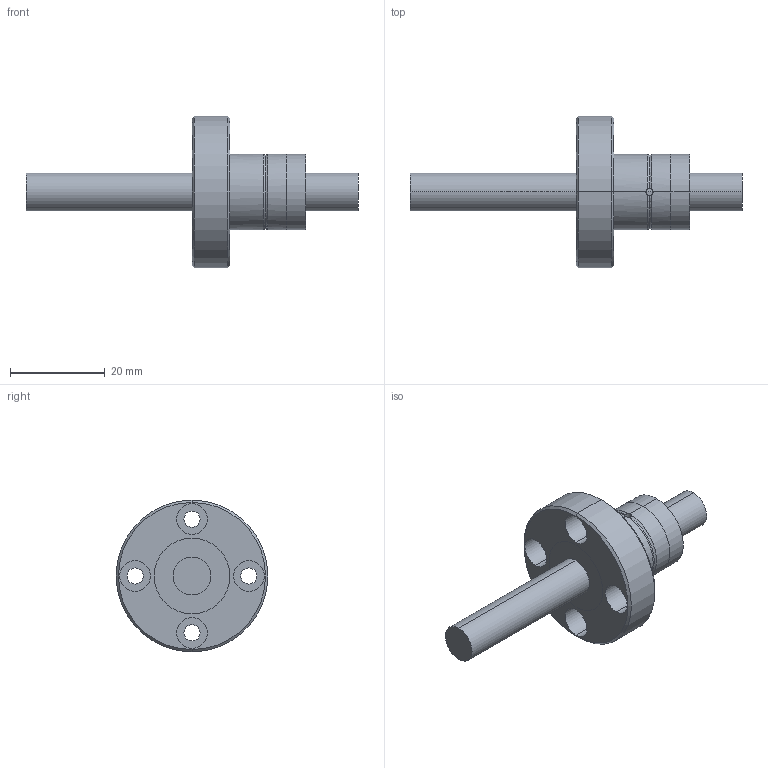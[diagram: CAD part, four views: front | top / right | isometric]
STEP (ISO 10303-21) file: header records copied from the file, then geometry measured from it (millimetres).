
FILE_DESCRIPTION (( 'STEP AP203' ), '1' );
FILE_NAME ('KLF008T2.STEP', '2023-08-17T07:20:25', ( '' ), ( '' ), 'SwSTEP 2.0', 'SolidWorks 2022', '' );
FILE_SCHEMA (( 'CONFIG_CONTROL_DESIGN' ));
Length unit declared in the file: millimetre
Products named in the file (5): 塑胶2^KLF008T2; 主体^KLF008T2; 零件6^KLF008T2; 塑胶1^KLF008T2; KLF008T2
Assembly tree (4 placements, depth 2):
  KLF008T2
    主体^KLF008T2
    塑胶1^KLF008T2
    塑胶2^KLF008T2
    零件6^KLF008T2
Bounding box: 70 x 32 x 32 mm (x, y, z)
Volume: 11193.1 mm3; surface area: 7004.2 mm2
Topology: 4 solids, 4 shells, 62 faces, 144 edges, 92 vertices
Faces by surface type: cylinder 40, plane 14, torus 4, cone 4
Entity records: 2441 total; most frequent: CARTESIAN_POINT 437, DIRECTION 340, ORIENTED_EDGE 288, AXIS2_PLACEMENT_3D 147, EDGE_CURVE 144, VERTEX_POINT 92, EDGE_LOOP 82, CIRCLE 78
